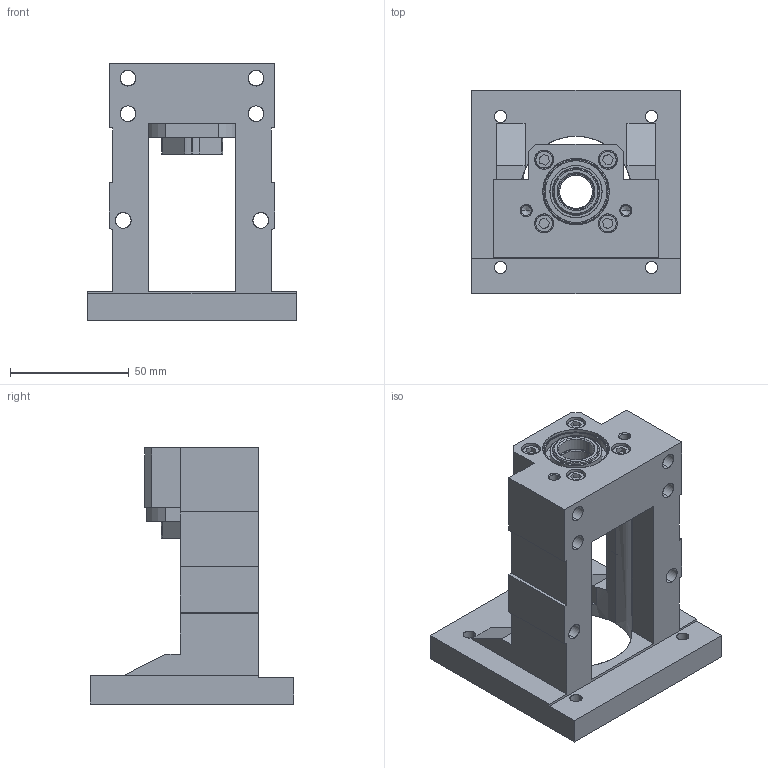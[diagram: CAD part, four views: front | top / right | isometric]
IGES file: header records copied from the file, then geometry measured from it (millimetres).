
Start section: SolidWorks IGES file using analytic representation for surfaces
Global section: file name: C:\Users\117\Desktop\MBCB15-E.IGS; native system: SolidWorks 2018; preprocessor: SolidWorks 2018; author: 117; date: 230112.083754; units: millimetre
Bounding box: 88 x 86 x 108 mm (x, y, z)
Surface area: 73564.5 mm2 (no closed solid volume)
Topology: 0 solids, 0 shells, 571 faces, 10456 edges, 10380 vertices
Faces by surface type: revolution 318, bspline 253
